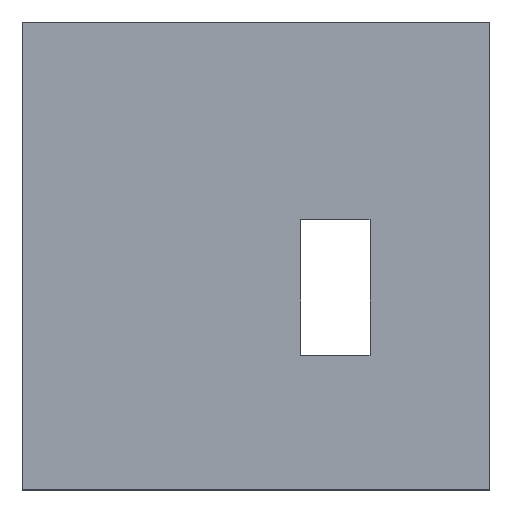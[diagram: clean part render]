
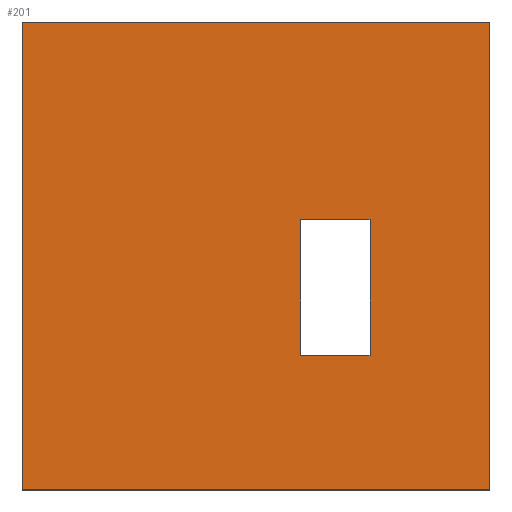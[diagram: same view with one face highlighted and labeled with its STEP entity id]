
A CAD part, top view. The second image highlights one B-rep face of the part: STEP entity #201.
In plain terms, the highlighted planar face has unit normal (0, 0, 1).
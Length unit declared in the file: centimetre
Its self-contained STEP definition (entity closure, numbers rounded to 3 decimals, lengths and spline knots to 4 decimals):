
#5 = CARTESIAN_POINT ( 'NONE',  ( 0., 0., 1000. ) ) ;
#19 = VECTOR ( 'NONE', #269, 100. ) ;
#25 = LINE ( 'NONE', #348, #28 ) ;
#28 = VECTOR ( 'NONE', #265, 100. ) ;
#29 = EDGE_CURVE ( 'NONE', #412, #125, #158, .T. ) ;
#33 = LINE ( 'NONE', #282, #200 ) ;
#35 = DIRECTION ( 'NONE',  ( -1., 0., 0. ) ) ;
#41 = EDGE_CURVE ( 'NONE', #230, #148, #455, .T. ) ;
#49 = VECTOR ( 'NONE', #221, 100. ) ;
#66 = VECTOR ( 'NONE', #457, 100. ) ;
#71 = CARTESIAN_POINT ( 'NONE',  ( 0., 0., 1000. ) ) ;
#74 = ORIENTED_EDGE ( 'NONE', *, *, #463, .T. ) ;
#82 = LINE ( 'NONE', #237, #66 ) ;
#100 = CARTESIAN_POINT ( 'NONE',  ( 743.7486, 287.5005, 1000. ) ) ;
#106 = EDGE_CURVE ( 'NONE', #148, #404, #33, .T. ) ;
#108 = CARTESIAN_POINT ( 'NONE',  ( 743.7486, 287.5005, 1000. ) ) ;
#122 = CARTESIAN_POINT ( 'NONE',  ( 0., 1000., 1000. ) ) ;
#125 = VERTEX_POINT ( 'NONE', #108 ) ;
#140 = VECTOR ( 'NONE', #35, 100. ) ;
#145 = CARTESIAN_POINT ( 'NONE',  ( 1000., 0., 1000. ) ) ;
#148 = VERTEX_POINT ( 'NONE', #71 ) ;
#153 = ORIENTED_EDGE ( 'NONE', *, *, #29, .F. ) ;
#158 = LINE ( 'NONE', #458, #267 ) ;
#163 = EDGE_CURVE ( 'NONE', #125, #305, #372, .T. ) ;
#186 = CARTESIAN_POINT ( 'NONE',  ( 0., 1000., 1000. ) ) ;
#190 = LINE ( 'NONE', #296, #140 ) ;
#191 = ORIENTED_EDGE ( 'NONE', *, *, #41, .T. ) ;
#200 = VECTOR ( 'NONE', #248, 100. ) ;
#201 = ADVANCED_FACE ( 'NONE', ( #260, #288 ), #376, .T. ) ;
#204 = CARTESIAN_POINT ( 'NONE',  ( 595.5417, 577.435, 1000. ) ) ;
#214 = EDGE_CURVE ( 'NONE', #343, #230, #190, .T. ) ;
#220 = EDGE_LOOP ( 'NONE', ( #339, #437, #444, #153 ) ) ;
#221 = DIRECTION ( 'NONE',  ( 0., 1., 0. ) ) ;
#230 = VERTEX_POINT ( 'NONE', #186 ) ;
#237 = CARTESIAN_POINT ( 'NONE',  ( 595.5417, 287.5005, 1000. ) ) ;
#248 = DIRECTION ( 'NONE',  ( 1., 0., 0. ) ) ;
#260 = FACE_BOUND ( 'NONE', #220, .T. ) ;
#265 = DIRECTION ( 'NONE',  ( -1., 0., 0. ) ) ;
#267 = VECTOR ( 'NONE', #422, 100. ) ;
#269 = DIRECTION ( 'NONE',  ( 0., -1., 0. ) ) ;
#270 = DIRECTION ( 'NONE',  ( 0., 1., 0. ) ) ;
#272 = EDGE_CURVE ( 'NONE', #305, #353, #25, .T. ) ;
#282 = CARTESIAN_POINT ( 'NONE',  ( 0., 0., 1000. ) ) ;
#284 = EDGE_CURVE ( 'NONE', #353, #412, #82, .T. ) ;
#288 = FACE_OUTER_BOUND ( 'NONE', #451, .T. ) ;
#295 = ORIENTED_EDGE ( 'NONE', *, *, #214, .T. ) ;
#296 = CARTESIAN_POINT ( 'NONE',  ( 0., 1000., 1000. ) ) ;
#305 = VERTEX_POINT ( 'NONE', #393 ) ;
#339 = ORIENTED_EDGE ( 'NONE', *, *, #284, .F. ) ;
#343 = VERTEX_POINT ( 'NONE', #436 ) ;
#348 = CARTESIAN_POINT ( 'NONE',  ( 595.5417, 577.435, 1000. ) ) ;
#353 = VERTEX_POINT ( 'NONE', #204 ) ;
#359 = AXIS2_PLACEMENT_3D ( 'NONE', #5, #366, #438 ) ;
#366 = DIRECTION ( 'NONE',  ( 0., 0., 1. ) ) ;
#372 = LINE ( 'NONE', #100, #49 ) ;
#376 = PLANE ( 'NONE',  #359 ) ;
#393 = CARTESIAN_POINT ( 'NONE',  ( 743.7486, 577.435, 1000. ) ) ;
#395 = VECTOR ( 'NONE', #270, 100. ) ;
#404 = VERTEX_POINT ( 'NONE', #145 ) ;
#412 = VERTEX_POINT ( 'NONE', #427 ) ;
#422 = DIRECTION ( 'NONE',  ( 1., 0., 0. ) ) ;
#427 = CARTESIAN_POINT ( 'NONE',  ( 595.5417, 287.5005, 1000. ) ) ;
#431 = LINE ( 'NONE', #460, #395 ) ;
#436 = CARTESIAN_POINT ( 'NONE',  ( 1000., 1000., 1000. ) ) ;
#437 = ORIENTED_EDGE ( 'NONE', *, *, #272, .F. ) ;
#438 = DIRECTION ( 'NONE',  ( 1., 0., 0. ) ) ;
#441 = ORIENTED_EDGE ( 'NONE', *, *, #106, .T. ) ;
#444 = ORIENTED_EDGE ( 'NONE', *, *, #163, .F. ) ;
#451 = EDGE_LOOP ( 'NONE', ( #191, #441, #74, #295 ) ) ;
#455 = LINE ( 'NONE', #122, #19 ) ;
#457 = DIRECTION ( 'NONE',  ( 0., -1., 0. ) ) ;
#458 = CARTESIAN_POINT ( 'NONE',  ( 595.5417, 287.5005, 1000. ) ) ;
#460 = CARTESIAN_POINT ( 'NONE',  ( 1000., 1000., 1000. ) ) ;
#463 = EDGE_CURVE ( 'NONE', #404, #343, #431, .T. ) ;
